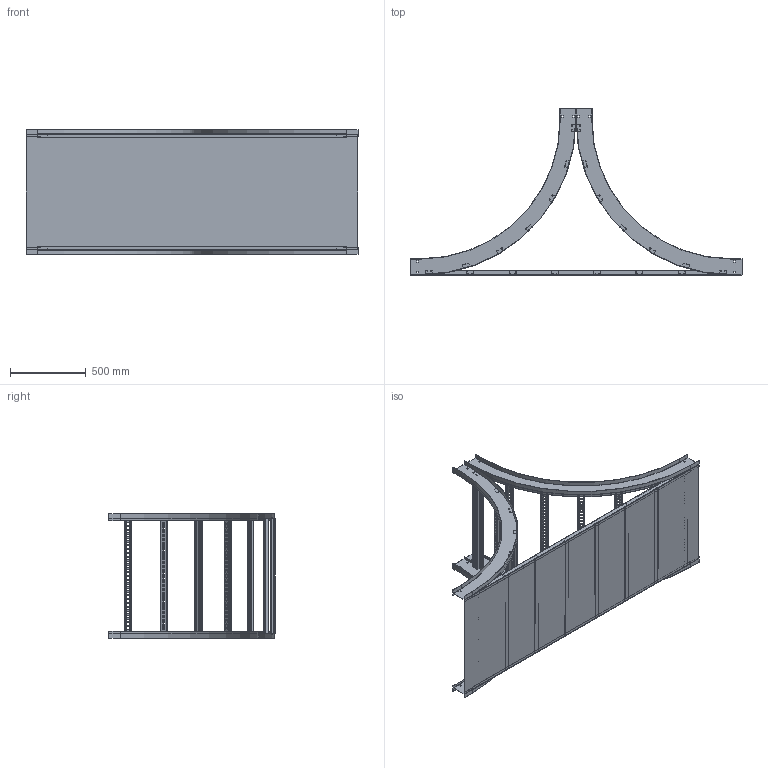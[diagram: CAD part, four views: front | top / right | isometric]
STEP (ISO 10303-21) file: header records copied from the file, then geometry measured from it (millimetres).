
FILE_DESCRIPTION((''),'2;1');
FILE_NAME('AHF430SVTU36_ASM','2010-01-27T',('erouzier'),(''),'PRO/ENGINEER BY PARAMETRIC TECHNOLOGY CORPORATION, 2008510','PRO/ENGINEER BY PARAMETRIC TECHNOLOGY CORPORATION, 2008510','');
FILE_SCHEMA(('CONFIG_CONTROL_DESIGN'));
Length unit declared in the file: inch
Products named in the file (8): CDS001658_4_90_36; CDS002159L30-P; AHF430LVI9036_ASM; CDS000495_GEN_AF6; CDS000495_GEN_AF7; CDS002159L30; CDS015035_4_30_36; AHF430SVTU36_ASM
Assembly tree (20 placements, depth 3):
  AHF430SVTU36_ASM
    AHF430LVI9036_ASM  x2
      CDS001658_4_90_36
      CDS002159L30-P
    CDS000495_GEN_AF6
    CDS000495_GEN_AF7
    CDS002159L30  x6
    CDS015035_4_30_36
Bounding box: 2193.29 x 1098.68 x 822.2 mm (x, y, z)
Volume: 6778008.1 mm3; surface area: 9832075.4 mm2
Topology: 27 solids, 27 shells, 3930 faces, 11628 edges, 7752 vertices
Faces by surface type: plane 2114, cylinder 1816
Entity records: 12116 total; most frequent: DIRECTION 2094, CARTESIAN_POINT 2089, ORIENTED_EDGE 2040, EDGE_CURVE 1020, VECTOR 724, LINE 724, AXIS2_PLACEMENT_3D 685, VERTEX_POINT 680
